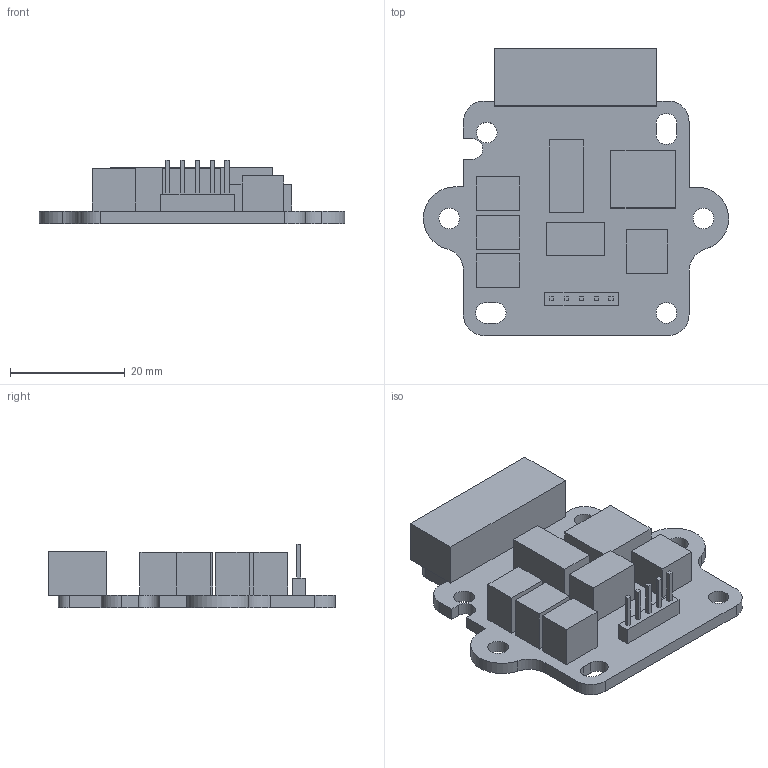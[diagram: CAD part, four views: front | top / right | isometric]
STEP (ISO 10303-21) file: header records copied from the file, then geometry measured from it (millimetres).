
FILE_DESCRIPTION(/* description */ (''),/* implementation_level */ '2;1');
FILE_NAME(/* name */ 'PCB 3dprint v2.2.step',/* time_stamp */ '2023-12-21T22:32:11+03:00',/* author */ (''),/* organization */ (''),/* preprocessor_version */ 'ST-DEVELOPER v20',/* originating_system */ 'Autodesk Translation Framework v12.14.0.127',/* authorisation */ '');
FILE_SCHEMA (('AUTOMOTIVE_DESIGN { 1 0 10303 214 3 1 1 }'));
Length unit declared in the file: millimetre
Products named in the file (1): PCB 3dprint v2.2
Bounding box: 53.27 x 50.11 x 11.1 mm (x, y, z)
Volume: 9246.6 mm3; surface area: 8081.4 mm2
Topology: 10 solids, 10 shells, 121 faces, 288 edges, 192 vertices
Faces by surface type: plane 100, cylinder 21
Full cylindrical faces by diameter (mm): 2.8 x2, 3.6 x4
Entity records: 3520 total; most frequent: CARTESIAN_POINT 602, ORIENTED_EDGE 576, DIRECTION 574, EDGE_CURVE 288, LINE 246, VECTOR 246, VERTEX_POINT 192, AXIS2_PLACEMENT_3D 164
